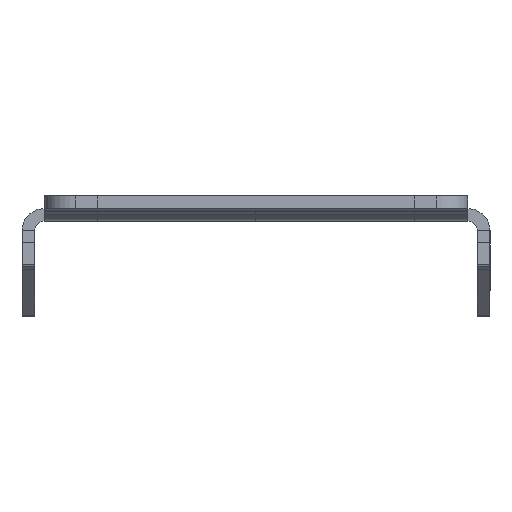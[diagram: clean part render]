
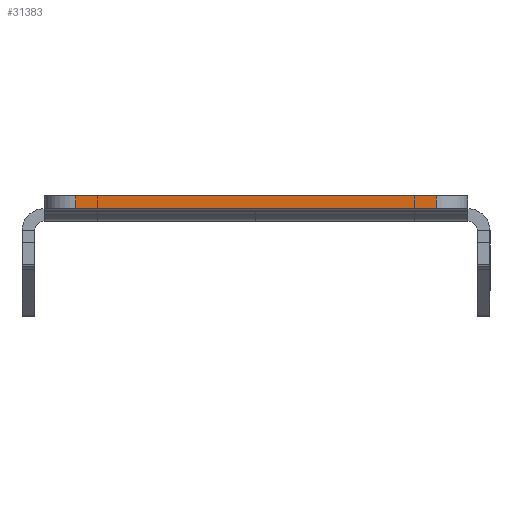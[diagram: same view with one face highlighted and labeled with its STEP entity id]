
A CAD part, left-side view. The second image highlights one B-rep face of the part: STEP entity #31383.
In plain terms, the highlighted planar face has unit normal (-1, 0, 0).
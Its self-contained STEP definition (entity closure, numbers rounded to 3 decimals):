
#1081 = CARTESIAN_POINT ( 'NONE',  ( -676.002, -28.5, 9.531 ) ) ;
#3775 = CARTESIAN_POINT ( 'NONE',  ( -676.002, 33.5, 9.531 ) ) ;
#4427 = ORIENTED_EDGE ( 'NONE', *, *, #4532, .T. ) ;
#4532 = EDGE_CURVE ( 'NONE', #36713, #63380, #63291, .T. ) ;
#6972 = CARTESIAN_POINT ( 'NONE',  ( -676.002, -28.5, 7.531 ) ) ;
#7128 = LINE ( 'NONE', #76566, #40430 ) ;
#8444 = CARTESIAN_POINT ( 'NONE',  ( -676.002, -28.5, 9.531 ) ) ;
#16683 = ORIENTED_EDGE ( 'NONE', *, *, #26051, .F. ) ;
#20783 = VECTOR ( 'NONE', #55948, 1000. ) ;
#24350 = CARTESIAN_POINT ( 'NONE',  ( -676.002, 28.5, 9.531 ) ) ;
#26051 = EDGE_CURVE ( 'NONE', #59209, #63380, #7128, .T. ) ;
#27175 = DIRECTION ( 'NONE',  ( 0., 0., 1. ) ) ;
#30652 = EDGE_CURVE ( 'NONE', #59209, #58017, #54522, .T. ) ;
#31383 = ADVANCED_FACE ( 'NONE', ( #80310 ), #68331, .T. ) ;
#32899 = VECTOR ( 'NONE', #27175, 1000. ) ;
#36713 = VERTEX_POINT ( 'NONE', #83810 ) ;
#40056 = EDGE_CURVE ( 'NONE', #58017, #36713, #42268, .T. ) ;
#40430 = VECTOR ( 'NONE', #45644, 1000. ) ;
#40993 = CARTESIAN_POINT ( 'NONE',  ( -676.002, 28.5, 7.531 ) ) ;
#42237 = DIRECTION ( 'NONE',  ( -1., 0., 0. ) ) ;
#42268 = LINE ( 'NONE', #3775, #20783 ) ;
#45644 = DIRECTION ( 'NONE',  ( 0., 1., 0. ) ) ;
#46476 = ORIENTED_EDGE ( 'NONE', *, *, #30652, .T. ) ;
#47383 = DIRECTION ( 'NONE',  ( 0., 0., 1. ) ) ;
#50423 = DIRECTION ( 'NONE',  ( 0., 0., -1. ) ) ;
#52102 = ORIENTED_EDGE ( 'NONE', *, *, #40056, .T. ) ;
#54522 = LINE ( 'NONE', #1081, #32899 ) ;
#54886 = AXIS2_PLACEMENT_3D ( 'NONE', #74750, #42237, #47383 ) ;
#55948 = DIRECTION ( 'NONE',  ( 0., 1., 0. ) ) ;
#58017 = VERTEX_POINT ( 'NONE', #8444 ) ;
#59209 = VERTEX_POINT ( 'NONE', #6972 ) ;
#59385 = EDGE_LOOP ( 'NONE', ( #16683, #46476, #52102, #4427 ) ) ;
#63291 = LINE ( 'NONE', #24350, #69850 ) ;
#63380 = VERTEX_POINT ( 'NONE', #40993 ) ;
#68331 = PLANE ( 'NONE',  #54886 ) ;
#69850 = VECTOR ( 'NONE', #50423, 1000. ) ;
#74750 = CARTESIAN_POINT ( 'NONE',  ( -676.002, 33.5, 9.531 ) ) ;
#76566 = CARTESIAN_POINT ( 'NONE',  ( -676.002, 0., 7.531 ) ) ;
#80310 = FACE_OUTER_BOUND ( 'NONE', #59385, .T. ) ;
#83810 = CARTESIAN_POINT ( 'NONE',  ( -676.002, 28.5, 9.531 ) ) ;
